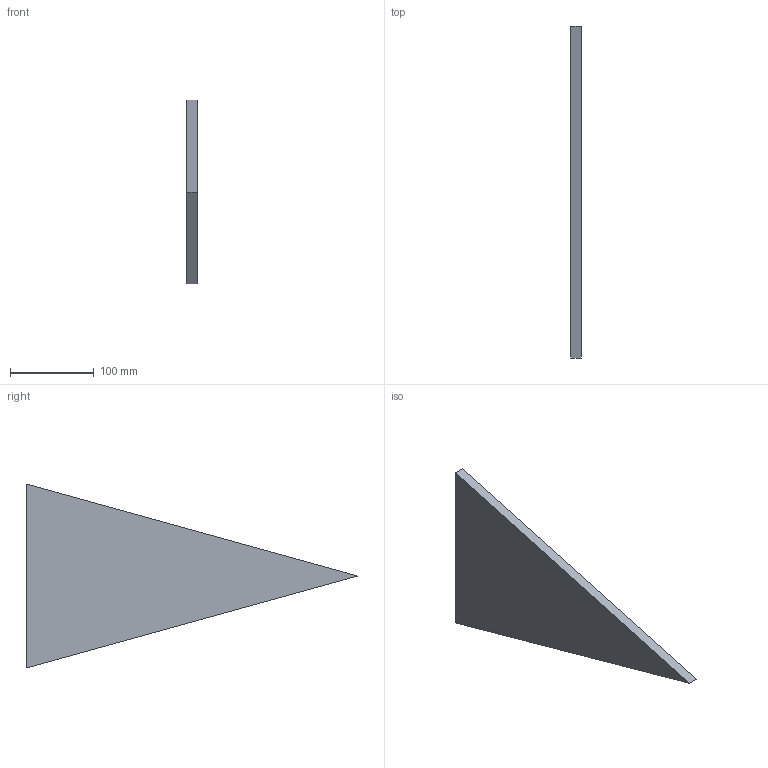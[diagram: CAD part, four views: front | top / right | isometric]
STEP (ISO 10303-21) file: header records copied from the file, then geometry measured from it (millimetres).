
FILE_DESCRIPTION(('Open CASCADE Model'),'2;1');
FILE_NAME('Open CASCADE Shape Model','2026-09-19T12:55:21',('Author'),( 'Open CASCADE'),'Open CASCADE STEP processor 7.9','Open CASCADE 7.9' ,'Unknown');
FILE_SCHEMA(('AUTOMOTIVE_DESIGN { 1 0 10303 214 1 1 1 1 }'));
Length unit declared in the file: millimetre
Products named in the file (1): Open CASCADE STEP translator 7.9 336
Bounding box: 12 x 397 x 220 mm (x, y, z)
Volume: 524040 mm3; surface area: 99867 mm2
Topology: 1 solids, 1 shells, 5 faces, 9 edges, 6 vertices
Faces by surface type: plane 5
Entity records: 250 total; most frequent: CARTESIAN_POINT 39, DIRECTION 39, LINE 27, VECTOR 27, ORIENTED_EDGE 18, PCURVE 18, DEFINITIONAL_REPRESENTATION 18, EDGE_CURVE 9
